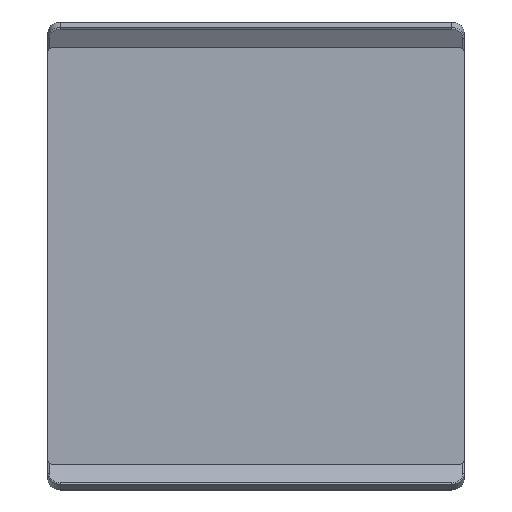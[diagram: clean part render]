
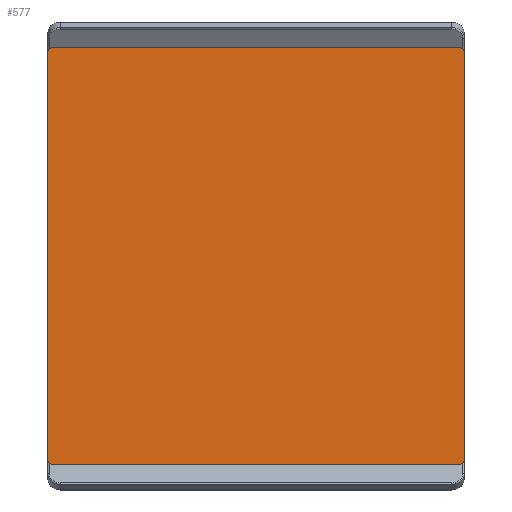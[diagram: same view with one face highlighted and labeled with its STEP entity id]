
A CAD part, front view. The second image highlights one B-rep face of the part: STEP entity #577.
In plain terms, the highlighted planar face has unit normal (0, -1, 0).
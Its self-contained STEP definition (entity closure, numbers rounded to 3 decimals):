
#434=CARTESIAN_POINT('',(-49.,0.,49.));
#435=DIRECTION('',(0.,1.,0.));
#436=DIRECTION('',(-1.,0.,0.));
#437=AXIS2_PLACEMENT_3D('',#434,#435,#436);
#439=DIRECTION('',(1.,0.,0.));
#440=VECTOR('',#439,98.);
#441=CARTESIAN_POINT('',(-49.,0.,50.));
#442=LINE('',#441,#440);
#443=CARTESIAN_POINT('',(49.,0.,49.));
#444=DIRECTION('',(0.,1.,0.));
#445=DIRECTION('',(0.,0.,1.));
#446=AXIS2_PLACEMENT_3D('',#443,#444,#445);
#448=DIRECTION('',(0.,0.,-1.));
#449=VECTOR('',#448,98.);
#450=CARTESIAN_POINT('',(50.,0.,49.));
#451=LINE('',#450,#449);
#452=CARTESIAN_POINT('',(49.,0.,-49.));
#453=DIRECTION('',(0.,1.,0.));
#454=DIRECTION('',(1.,0.,0.));
#455=AXIS2_PLACEMENT_3D('',#452,#453,#454);
#457=DIRECTION('',(-1.,0.,0.));
#458=VECTOR('',#457,98.);
#459=CARTESIAN_POINT('',(49.,0.,-50.));
#460=LINE('',#459,#458);
#461=CARTESIAN_POINT('',(-49.,0.,-49.));
#462=DIRECTION('',(0.,1.,0.));
#463=DIRECTION('',(0.,0.,-1.));
#464=AXIS2_PLACEMENT_3D('',#461,#462,#463);
#466=DIRECTION('',(0.,0.,1.));
#467=VECTOR('',#466,98.);
#468=CARTESIAN_POINT('',(-50.,0.,-49.));
#469=LINE('',#468,#467);
#522=CARTESIAN_POINT('',(-49.,0.,50.));
#523=CARTESIAN_POINT('',(-50.,0.,49.));
#524=VERTEX_POINT('',#522);
#525=VERTEX_POINT('',#523);
#530=CARTESIAN_POINT('',(50.,0.,49.));
#531=CARTESIAN_POINT('',(49.,0.,50.));
#532=VERTEX_POINT('',#530);
#533=VERTEX_POINT('',#531);
#538=CARTESIAN_POINT('',(-50.,0.,-49.));
#539=CARTESIAN_POINT('',(-49.,0.,-50.));
#540=VERTEX_POINT('',#538);
#541=VERTEX_POINT('',#539);
#546=CARTESIAN_POINT('',(49.,0.,-50.));
#547=CARTESIAN_POINT('',(50.,0.,-49.));
#548=VERTEX_POINT('',#546);
#549=VERTEX_POINT('',#547);
#554=CARTESIAN_POINT('',(0.,0.,0.));
#555=DIRECTION('',(0.,1.,0.));
#556=DIRECTION('',(-1.,0.,0.));
#557=AXIS2_PLACEMENT_3D('',#554,#555,#556);
#558=PLANE('',#557);
#560=ORIENTED_EDGE('',*,*,#559,.T.);
#562=ORIENTED_EDGE('',*,*,#561,.T.);
#564=ORIENTED_EDGE('',*,*,#563,.T.);
#566=ORIENTED_EDGE('',*,*,#565,.T.);
#568=ORIENTED_EDGE('',*,*,#567,.T.);
#570=ORIENTED_EDGE('',*,*,#569,.T.);
#572=ORIENTED_EDGE('',*,*,#571,.T.);
#574=ORIENTED_EDGE('',*,*,#573,.T.);
#575=EDGE_LOOP('',(#560,#562,#564,#566,#568,#570,#572,#574));
#576=FACE_OUTER_BOUND('',#575,.F.);
#577=ADVANCED_FACE('',(#576),#558,.F.);
#438=CIRCLE('',#437,1.);
#447=CIRCLE('',#446,1.);
#456=CIRCLE('',#455,1.);
#465=CIRCLE('',#464,1.);
#559=EDGE_CURVE('',#525,#524,#438,.T.);
#561=EDGE_CURVE('',#524,#533,#442,.T.);
#563=EDGE_CURVE('',#533,#532,#447,.T.);
#565=EDGE_CURVE('',#532,#549,#451,.T.);
#567=EDGE_CURVE('',#549,#548,#456,.T.);
#569=EDGE_CURVE('',#548,#541,#460,.T.);
#571=EDGE_CURVE('',#541,#540,#465,.T.);
#573=EDGE_CURVE('',#540,#525,#469,.T.);
